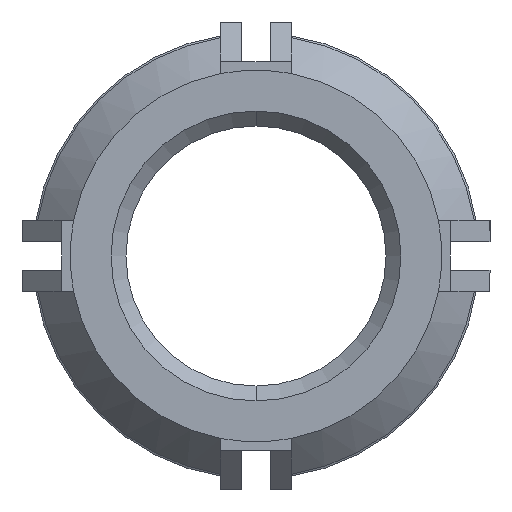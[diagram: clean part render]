
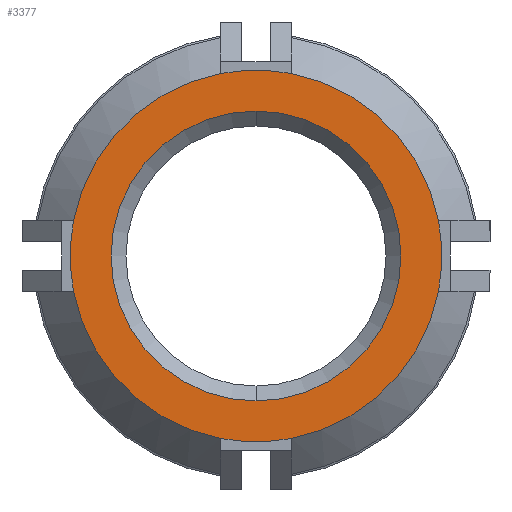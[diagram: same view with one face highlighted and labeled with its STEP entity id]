
A CAD part, front view. The second image highlights one B-rep face of the part: STEP entity #3377.
In plain terms, the highlighted planar face has unit normal (0, -1, 0).
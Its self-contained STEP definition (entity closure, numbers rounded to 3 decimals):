
#57 = DIRECTION ( 'NONE',  ( 0., 0., 1. ) ) ;
#112 = ORIENTED_EDGE ( 'NONE', *, *, #810, .T. ) ;
#125 = CARTESIAN_POINT ( 'NONE',  ( 0., -15.748, 0. ) ) ;
#208 = FACE_BOUND ( 'NONE', #2434, .T. ) ;
#274 = DIRECTION ( 'NONE',  ( -1., 0., 0. ) ) ;
#293 = DIRECTION ( 'NONE',  ( 0., 0., 1. ) ) ;
#321 = CARTESIAN_POINT ( 'NONE',  ( 0., -15.748, 0. ) ) ;
#384 = ORIENTED_EDGE ( 'NONE', *, *, #3523, .T. ) ;
#389 = DIRECTION ( 'NONE',  ( 0., 1., 0. ) ) ;
#442 = AXIS2_PLACEMENT_3D ( 'NONE', #3939, #389, #57 ) ;
#552 = CARTESIAN_POINT ( 'NONE',  ( 0., -15.748, 0. ) ) ;
#601 = CARTESIAN_POINT ( 'NONE',  ( -7.795, -15.748, -1.5 ) ) ;
#618 = AXIS2_PLACEMENT_3D ( 'NONE', #125, #4401, #2456 ) ;
#645 = CIRCLE ( 'NONE', #618, 7.938 ) ;
#763 = VERTEX_POINT ( 'NONE', #3374 ) ;
#810 = EDGE_CURVE ( 'NONE', #1041, #2480, #4049, .T. ) ;
#1019 = CARTESIAN_POINT ( 'NONE',  ( 0., -15.748, 0. ) ) ;
#1041 = VERTEX_POINT ( 'NONE', #3723 ) ;
#1061 = AXIS2_PLACEMENT_3D ( 'NONE', #3137, #5020, #1133 ) ;
#1133 = DIRECTION ( 'NONE',  ( 0., 0., 1. ) ) ;
#1234 = DIRECTION ( 'NONE',  ( 1., 0., 0. ) ) ;
#1262 = FACE_OUTER_BOUND ( 'NONE', #4920, .T. ) ;
#1311 = ORIENTED_EDGE ( 'NONE', *, *, #4638, .T. ) ;
#1337 = AXIS2_PLACEMENT_3D ( 'NONE', #552, #1358, #3624 ) ;
#1358 = DIRECTION ( 'NONE',  ( 0., -1., 0. ) ) ;
#1397 = PLANE ( 'NONE',  #3966 ) ;
#1412 = CARTESIAN_POINT ( 'NONE',  ( 1.5, -15.748, -7.795 ) ) ;
#1457 = ORIENTED_EDGE ( 'NONE', *, *, #3401, .T. ) ;
#1506 = CIRCLE ( 'NONE', #442, 6.191 ) ;
#1512 = DIRECTION ( 'NONE',  ( 0., 0., 1. ) ) ;
#1537 = AXIS2_PLACEMENT_3D ( 'NONE', #1019, #2594, #274 ) ;
#1581 = CIRCLE ( 'NONE', #1337, 7.938 ) ;
#1733 = CARTESIAN_POINT ( 'NONE',  ( 0., -15.748, -6.191 ) ) ;
#1768 = ORIENTED_EDGE ( 'NONE', *, *, #4199, .T. ) ;
#1822 = DIRECTION ( 'NONE',  ( 0., 1., 0. ) ) ;
#1840 = DIRECTION ( 'NONE',  ( 0., 0., 1. ) ) ;
#1977 = VERTEX_POINT ( 'NONE', #3423 ) ;
#1995 = ORIENTED_EDGE ( 'NONE', *, *, #3260, .T. ) ;
#2115 = CIRCLE ( 'NONE', #4494, 6.191 ) ;
#2226 = CIRCLE ( 'NONE', #3266, 7.938 ) ;
#2287 = CARTESIAN_POINT ( 'NONE',  ( 0., -15.748, 0. ) ) ;
#2304 = VERTEX_POINT ( 'NONE', #4091 ) ;
#2328 = DIRECTION ( 'NONE',  ( 0., -1., 0. ) ) ;
#2434 = EDGE_LOOP ( 'NONE', ( #384, #3933 ) ) ;
#2455 = VERTEX_POINT ( 'NONE', #4183 ) ;
#2456 = DIRECTION ( 'NONE',  ( 0., 0., -1. ) ) ;
#2461 = VERTEX_POINT ( 'NONE', #1412 ) ;
#2480 = VERTEX_POINT ( 'NONE', #4962 ) ;
#2532 = EDGE_CURVE ( 'NONE', #2480, #2862, #2226, .T. ) ;
#2556 = CIRCLE ( 'NONE', #3677, 7.938 ) ;
#2594 = DIRECTION ( 'NONE',  ( 0., -1., 0. ) ) ;
#2862 = VERTEX_POINT ( 'NONE', #601 ) ;
#2932 = VERTEX_POINT ( 'NONE', #1733 ) ;
#3021 = CARTESIAN_POINT ( 'NONE',  ( 0., -15.748, 0. ) ) ;
#3083 = ORIENTED_EDGE ( 'NONE', *, *, #4162, .T. ) ;
#3137 = CARTESIAN_POINT ( 'NONE',  ( 0., -15.748, 0. ) ) ;
#3165 = EDGE_CURVE ( 'NONE', #763, #2455, #1581, .T. ) ;
#3198 = CARTESIAN_POINT ( 'NONE',  ( 0., -15.748, 0. ) ) ;
#3260 = EDGE_CURVE ( 'NONE', #2304, #2461, #4483, .T. ) ;
#3265 = EDGE_CURVE ( 'NONE', #1977, #2932, #2115, .T. ) ;
#3266 = AXIS2_PLACEMENT_3D ( 'NONE', #321, #3847, #1512 ) ;
#3349 = DIRECTION ( 'NONE',  ( 0., 1., 0. ) ) ;
#3374 = CARTESIAN_POINT ( 'NONE',  ( 7.795, -15.748, 1.5 ) ) ;
#3377 = ADVANCED_FACE ( 'NONE', ( #208, #1262 ), #1397, .F. ) ;
#3401 = EDGE_CURVE ( 'NONE', #2862, #2304, #3525, .T. ) ;
#3423 = CARTESIAN_POINT ( 'NONE',  ( 0., -15.748, 6.191 ) ) ;
#3489 = ORIENTED_EDGE ( 'NONE', *, *, #3165, .T. ) ;
#3523 = EDGE_CURVE ( 'NONE', #2932, #1977, #1506, .T. ) ;
#3525 = CIRCLE ( 'NONE', #3714, 7.938 ) ;
#3533 = DIRECTION ( 'NONE',  ( 0., -1., 0. ) ) ;
#3624 = DIRECTION ( 'NONE',  ( 0., 0., 1. ) ) ;
#3649 = DIRECTION ( 'NONE',  ( 0., 0., 1. ) ) ;
#3677 = AXIS2_PLACEMENT_3D ( 'NONE', #3198, #4791, #3649 ) ;
#3714 = AXIS2_PLACEMENT_3D ( 'NONE', #2287, #2328, #293 ) ;
#3723 = CARTESIAN_POINT ( 'NONE',  ( -1.5, -15.748, 7.795 ) ) ;
#3847 = DIRECTION ( 'NONE',  ( 0., -1., 0. ) ) ;
#3933 = ORIENTED_EDGE ( 'NONE', *, *, #3265, .T. ) ;
#3939 = CARTESIAN_POINT ( 'NONE',  ( 0., -15.748, 0. ) ) ;
#3952 = VERTEX_POINT ( 'NONE', #4217 ) ;
#3966 = AXIS2_PLACEMENT_3D ( 'NONE', #4542, #3349, #4566 ) ;
#4049 = CIRCLE ( 'NONE', #1061, 7.938 ) ;
#4068 = AXIS2_PLACEMENT_3D ( 'NONE', #4327, #3533, #1234 ) ;
#4091 = CARTESIAN_POINT ( 'NONE',  ( -1.5, -15.748, -7.795 ) ) ;
#4162 = EDGE_CURVE ( 'NONE', #3952, #763, #645, .T. ) ;
#4183 = CARTESIAN_POINT ( 'NONE',  ( 1.5, -15.748, 7.795 ) ) ;
#4199 = EDGE_CURVE ( 'NONE', #2461, #3952, #2556, .T. ) ;
#4217 = CARTESIAN_POINT ( 'NONE',  ( 7.795, -15.748, -1.5 ) ) ;
#4327 = CARTESIAN_POINT ( 'NONE',  ( 0., -15.748, 0. ) ) ;
#4401 = DIRECTION ( 'NONE',  ( 0., -1., 0. ) ) ;
#4434 = ORIENTED_EDGE ( 'NONE', *, *, #2532, .T. ) ;
#4483 = CIRCLE ( 'NONE', #1537, 7.938 ) ;
#4494 = AXIS2_PLACEMENT_3D ( 'NONE', #3021, #1822, #1840 ) ;
#4542 = CARTESIAN_POINT ( 'NONE',  ( 0., -15.748, 0. ) ) ;
#4566 = DIRECTION ( 'NONE',  ( 0., 0., 1. ) ) ;
#4618 = CIRCLE ( 'NONE', #4068, 7.938 ) ;
#4638 = EDGE_CURVE ( 'NONE', #2455, #1041, #4618, .T. ) ;
#4791 = DIRECTION ( 'NONE',  ( 0., -1., 0. ) ) ;
#4920 = EDGE_LOOP ( 'NONE', ( #4434, #1457, #1995, #1768, #3083, #3489, #1311, #112 ) ) ;
#4962 = CARTESIAN_POINT ( 'NONE',  ( -7.795, -15.748, 1.5 ) ) ;
#5020 = DIRECTION ( 'NONE',  ( 0., -1., 0. ) ) ;
